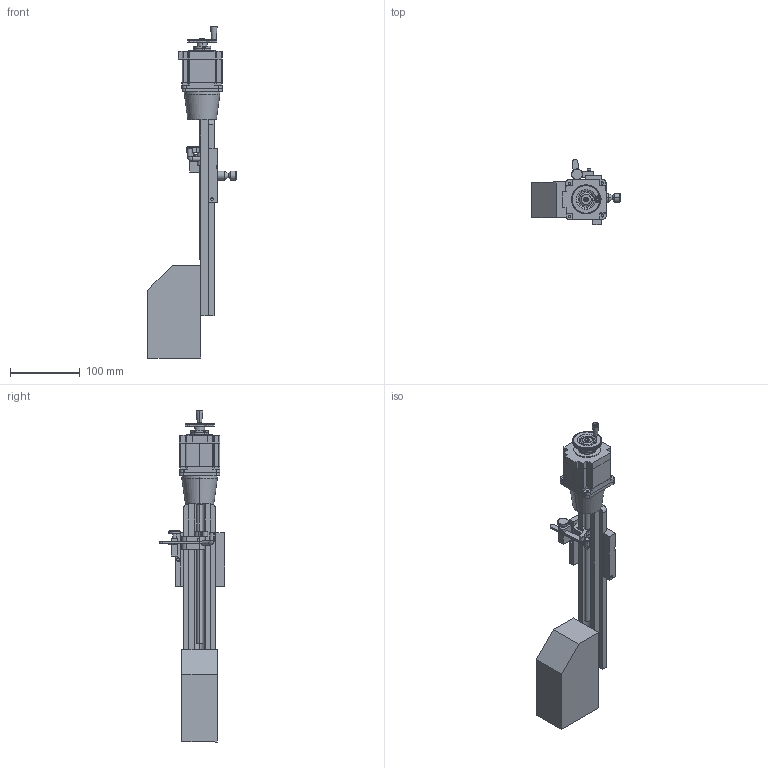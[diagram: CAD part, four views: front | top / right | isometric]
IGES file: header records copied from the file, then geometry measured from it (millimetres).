
Start section: Comment
Global section: file name: 5000 MILL COLUMN cnc.igs; native system:  By Spatial Corp.; preprocessor: XPlus PS/IGES 3.0; author: Author; organization: Title; date: 20190124.170705; units: inch
Bounding box: 126.31 x 93.03 x 474.35 mm (x, y, z)
Surface area: 165946.9 mm2 (no closed solid volume)
Topology: 0 solids, 0 shells, 2334 faces, 11324 edges, 11320 vertices
Faces by surface type: extrusion 1485, revolution 841, bspline 8
